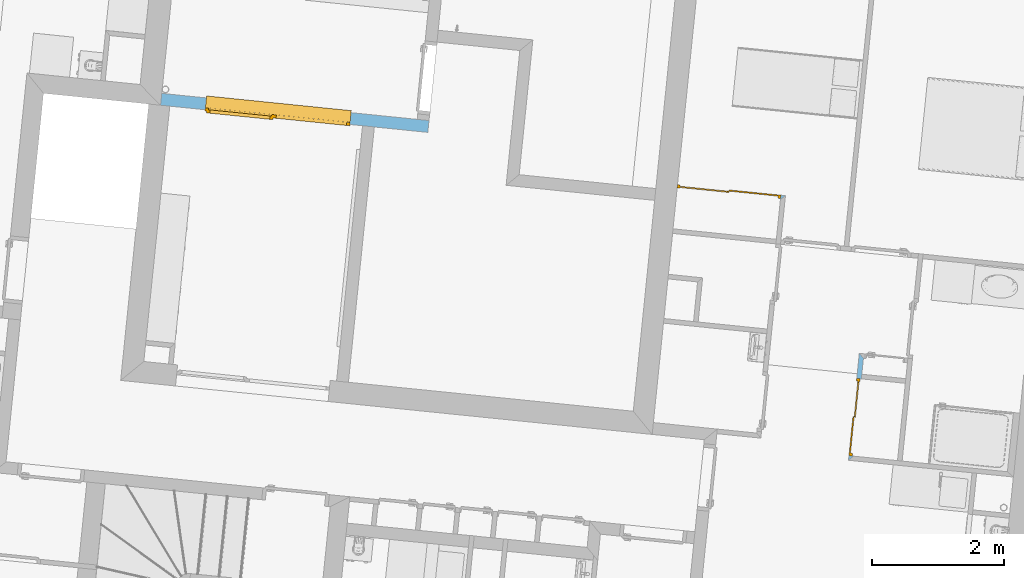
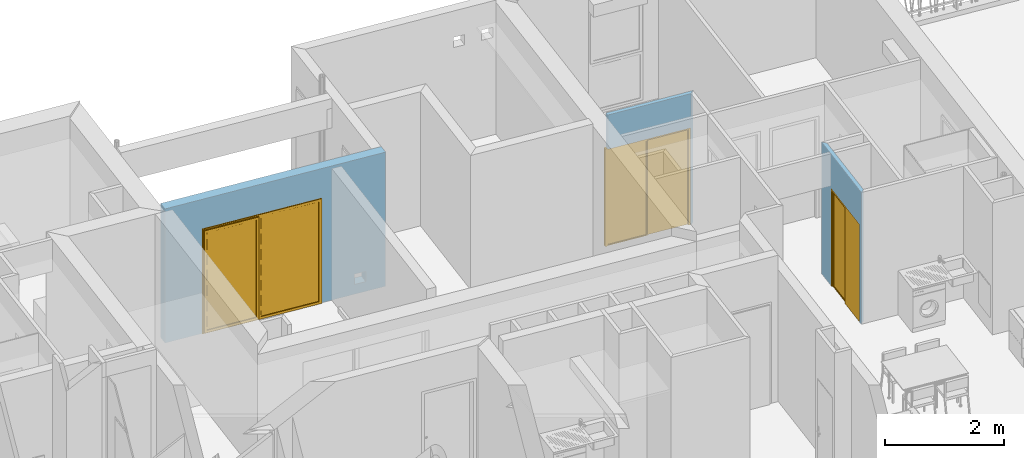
# One storey, part 111 of 171: 2 doors, 1 window, 4 openings, plus 3 elements that do not belong to this part.
"""IFC2X3 building model written with IfcOpenShell, lengths in millimetres."""

from ifc_helpers import new_model, entity, si_unit, converted_unit, derived_unit, money_unit, direction, frame, origin_with_axes, origin_2d_with_axis, place, context, subcontext, project, spatial, polyline, rectangle, outline, extrude, open_shell, faceted_brep, surface_model, material, layer, layer_set, layer_usage, type_object, element, fill, save


model = new_model("IFC2X3")

# Units and contexts
model_context = context("Model", 3, precision=0.01, world=origin_with_axes(), true_north=direction((0.0, 1.0)))
body_context = subcontext(model_context, "Body", "Model", "MODEL_VIEW")
ifc_project = project(units=[si_unit("LENGTHUNIT", "METRE", prefix="MILLI"), si_unit("AREAUNIT", "SQUARE_METRE"), si_unit("VOLUMEUNIT", "CUBIC_METRE"), converted_unit("PLANEANGLEUNIT", "DEGREE", entity("IfcPlaneAngleMeasure", 0.0174532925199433), si_unit("PLANEANGLEUNIT", "RADIAN"), dimensions=[0, 0, 0, 0, 0, 0, 0]), money_unit("USD"), converted_unit("TIMEUNIT", "Year", entity("IfcTimeMeasure", 31557600.0), si_unit("TIMEUNIT", "SECOND"), dimensions=[0, 0, 1, 0, 0, 0, 0]), si_unit("MASSUNIT", "GRAM", prefix="KILO"), si_unit("THERMODYNAMICTEMPERATUREUNIT", "DEGREE_CELSIUS"), si_unit("LUMINOUSINTENSITYUNIT", "LUMEN"), si_unit("ENERGYUNIT", "JOULE", prefix="MEGA"), derived_unit("THERMALCONDUCTANCEUNIT", [(si_unit("POWERUNIT", "WATT"), 1), (si_unit("LENGTHUNIT", "METRE"), -1), (si_unit("THERMODYNAMICTEMPERATUREUNIT", "KELVIN"), -1)]), derived_unit("SPECIFICHEATCAPACITYUNIT", [(si_unit("ENERGYUNIT", "JOULE"), 1), (si_unit("MASSUNIT", "GRAM", prefix="KILO"), -1), (si_unit("THERMODYNAMICTEMPERATUREUNIT", "KELVIN"), -1)]), derived_unit("MASSDENSITYUNIT", [(si_unit("MASSUNIT", "GRAM", prefix="KILO"), 1), (si_unit("VOLUMEUNIT", "CUBIC_METRE"), -1)])], contexts=[model_context])

# Site, building, storey
site_placement = place(None, origin_with_axes())
site = spatial("IfcSite", under=ifc_project, at=site_placement, Name="Site", CompositionType="ELEMENT")
building_placement = place(site_placement, origin_with_axes())
building = spatial("IfcBuilding", under=site, at=building_placement, Name="Bâtiment", CompositionType="ELEMENT")
storey_placement = place(building_placement, frame((0.0, 0.0, 3000.0), z_axis=(0.0, 0.0, 1.0), x_axis=(1.0, 0.0, 0.0)))
storey = spatial("IfcBuildingStorey", under=building, at=storey_placement, Name="rdc", CompositionType="ELEMENT", Elevation=3000.0)

# Wall, opening, door
ifc_material_1 = material(Name="Hachure solide 268963992")
ifc_layer_1 = layer(ifc_material_1, 70.0, ventilated="UNKNOWN")
ifc_layer_set_1 = layer_set([ifc_layer_1], Name="Cloison 70 0826278243")
ifc_layer_usage_1 = layer_usage(ifc_layer_set_1, "AXIS2", "NEGATIVE", 0.0)
wall_type_1 = type_object("IfcWallType", Name="Cloison 70 0826278243 70", PredefinedType="NOTDEFINED")
wall_1_placement = place(storey_placement, frame((2234019.011234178, -609514.5920400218, 0.0), z_axis=(0.0, 0.0, 1.0), x_axis=(0.9948759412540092, -0.1011032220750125, 0.0)))
wall_1 = element("IfcWallStandardCase", 1, at=wall_1_placement, inside=storey, type_object=wall_type_1, material=ifc_layer_usage_1, Name="Mur-153", context=body_context, shape_type="SweptSolid", body=[
    extrude(outline(polyline([(0.0, -69.99999999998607), (1531.417973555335, -69.99999999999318), (1601.417973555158, 0.0), (0.0, 0.0), (0.0, -69.99999999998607)])), origin_with_axes(), (0.0, 0.0, 1.0), 2700.0),
])
opening_1_placement = place(wall_1_placement, frame((745.7089867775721, 0.0, 0.0), z_axis=(0.0, 0.0, 1.0), x_axis=(1.0, 0.0, 0.0)))
opening_1 = element("IfcOpeningElement", 2, at=opening_1_placement, cuts=wall_1, Name="Por-325", context=body_context, shape_type="SweptSolid", body=[
    extrude(rectangle(XDim=1571.417973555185, YDim=2000.0, at=origin_2d_with_axis()), frame((0.0, 0.0, 1000.0), z_axis=(0.0, -1.0, 0.0), x_axis=(1.0, 0.0, 0.0)), (0.0, 0.0, -1.0), 70.0),
    extrude(rectangle(XDim=1571.417973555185, YDim=2000.0, at=origin_2d_with_axis()), frame((0.0, 0.0, 1000.0), z_axis=(0.0, 1.0, 0.0), x_axis=(1.0, 0.0, 0.0)), (0.0, 0.0, -1.0), 70.0),
])
door_style = type_object("IfcDoorStyle", ConstructionType="NOTDEFINED", OperationType="NOTDEFINED", ParameterTakesPrecedence=False, Sizeable=False)
door_1_placement = place(opening_1_placement, frame((-785.7089867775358, 0.0, 0.0), z_axis=(0.0, 0.0, 1.0), x_axis=(1.0, 0.0, 0.0)))
door_1 = element("IfcDoor", 3, at=door_1_placement, inside=storey, type_object=door_style, Name="Por-325", OverallHeight=2000.0, OverallWidth=1571.42, context=body_context, shape_type="SurfaceModel", body=[
    faceted_brep([(1571.417973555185, 0.0, 0.0), (1531.417973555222, 0.0, 0.0), (1531.417973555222, 0.0, 1960.0), (39.99999999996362, 0.0, 1960.0), (39.99999999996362, 0.0, 0.0), (0.0, 0.0, 0.0), (0.0, 0.0, 2000.0), (1571.417973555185, 0.0, 2000.0), (1571.417973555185, -49.99999999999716, 0.0), (1531.417973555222, -49.99999999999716, 0.0), (1531.417973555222, -9.99999999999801, 0.0), (1531.417973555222, -9.99999999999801, 1960.0), (39.99999999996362, -9.99999999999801, 1960.0), (39.99999999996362, -9.99999999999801, 0.0), (39.99999999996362, -49.99999999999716, 0.0), (-1.13686837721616e-10, -49.99999999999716, 0.0), (-1.13686837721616e-10, -49.99999999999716, 2000.0), (1571.417973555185, -49.99999999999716, 2000.0), (39.99999999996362, -49.99999999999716, 1960.0), (1531.417973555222, -49.99999999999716, 1960.0)], [[[0, 1, 2, 3, 4, 5, 6, 7]], [[0, 8, 9, 10, 1]], [[1, 10, 11, 2]], [[2, 11, 12, 3]], [[3, 12, 13, 4]], [[5, 4, 13, 14, 15]], [[16, 6, 5, 15]], [[17, 7, 6, 16]], [[8, 0, 7, 17]], [[9, 8, 17, 16, 15, 14, 18, 19]], [[10, 9, 19, 11]], [[11, 19, 18, 12]], [[12, 18, 14, 13]]]),
    faceted_brep([(39.99999999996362, -19.99999999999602, 0.0), (785.7089867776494, -19.99999999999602, 0.0), (785.7089867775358, -40.00000000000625, 0.0), (39.99999999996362, -39.99999999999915, 0.0), (39.99999999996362, -19.99999999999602, 1960.0), (785.7089867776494, -19.99999999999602, 1960.0), (59.99999999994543, -19.99999999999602, 20.00000000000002), (765.708986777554, -20.00000000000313, 20.00000000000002), (765.708986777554, -20.00000000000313, 1940.0), (59.99999999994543, -19.99999999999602, 1940.0), (785.7089867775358, -40.00000000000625, 1960.0), (39.99999999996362, -39.99999999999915, 1960.0), (60.00000000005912, -39.99999999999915, 20.00000000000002), (60.00000000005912, -39.99999999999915, 1940.0), (765.7089867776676, -39.99999999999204, 1940.0), (765.7089867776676, -39.99999999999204, 20.00000000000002)], [[[0, 1, 2, 3]], [[0, 4, 5, 1], [6, 7, 8, 9]], [[1, 5, 10, 2]], [[3, 2, 10, 11], [12, 13, 14, 15]], [[4, 0, 3, 11]], [[5, 4, 11, 10]], [[7, 6, 12, 15]], [[8, 7, 15, 14]], [[9, 8, 14, 13]], [[6, 9, 13, 12]]]),
    surface_model("IfcShellBasedSurfaceModel", [(60.00000000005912, -30.00000000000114, 20.00000000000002), (765.7089867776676, -29.99999999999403, 20.00000000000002), (765.7089867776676, -29.99999999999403, 1940.0), (60.00000000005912, -30.00000000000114, 1940.0)], [open_shell([[[0, 1, 2, 3]]])]),
    faceted_brep([(780.7089867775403, 0.0, 0.0), (1531.417973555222, 0.0, 0.0), (1531.417973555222, -19.99999999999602, 0.0), (780.708986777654, -19.99999999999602, 0.0), (780.7089867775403, 0.0, 1960.0), (1531.417973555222, 0.0, 1960.0), (1531.417973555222, -19.99999999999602, 1960.0), (780.708986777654, -19.99999999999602, 1960.0)], [[[0, 1, 2, 3]], [[0, 4, 5, 1]], [[1, 5, 6, 2]], [[3, 2, 6, 7]], [[4, 0, 3, 7]], [[5, 4, 7, 6]]]),
])
fill(opening_1, door_1)

ifc_layer_usage_2 = layer_usage(ifc_layer_set_1, "AXIS2", "NEGATIVE", 0.0)
wall_2_placement = place(storey_placement, frame((2236571.940387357, -613609.43394137, 0.0), z_axis=(0.0, 0.0, 1.0), x_axis=(0.1008361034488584, 0.9949030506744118, 0.0)))
wall_2 = element("IfcWallStandardCase", 4, at=wall_2_placement, inside=storey, type_object=wall_type_1, material=ifc_layer_usage_2, Name="Mur-153", context=body_context, shape_type="SweptSolid", body=[
    extrude(outline(polyline([(-0.01877734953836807, -70.00000000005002), (1485.488833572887, -70.00000000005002), (1555.488833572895, 0.0), (-69.99998503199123, 0.0), (-0.01877734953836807, -70.00000000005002)])), origin_with_axes(), (0.0, 0.0, 1.0), 2700.0),
])
opening_2_placement = place(wall_2_placement, frame((587.2524613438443, 1.13686837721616e-10, 0.0), z_axis=(0.0, 0.0, 1.0), x_axis=(1.0, 0.0, 0.0)))
opening_2 = element("IfcOpeningElement", 5, at=opening_2_placement, cuts=wall_2, Name="Por-254", context=body_context, shape_type="SweptSolid", body=[
    extrude(rectangle(XDim=1174.542511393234, YDim=2000.0, at=origin_2d_with_axis()), frame((0.0, -1.13686837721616e-10, 1000.0), z_axis=(0.0, -1.0, 0.0), x_axis=(1.0, 0.0, 0.0)), (0.0, 0.0, -1.0), 70.0),
    extrude(rectangle(XDim=1174.542511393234, YDim=2000.0, at=origin_2d_with_axis()), frame((0.0, 0.0, 1000.0), z_axis=(0.0, 1.0, 0.0), x_axis=(1.0, 0.0, 0.0)), (0.0, 0.0, -1.0), 70.0),
])
door_2_placement = place(opening_2_placement, frame((-587.2712556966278, -2.273736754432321e-10, 0.0), z_axis=(0.0, 0.0, 1.0), x_axis=(1.0, 0.0, 0.0)))
door_2 = element("IfcDoor", 6, at=door_2_placement, inside=storey, type_object=door_style, Name="Por-254", OverallHeight=2000.0, OverallWidth=1174.54, context=body_context, shape_type="SurfaceModel", body=[
    faceted_brep([(0.0, 0.0, 0.0), (0.0, 0.0, 2000.0), (1174.542511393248, -1.13686837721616e-10, 2000.0), (1174.542511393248, -1.13686837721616e-10, 0.0), (1134.542511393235, 0.0, 0.0), (1134.542511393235, 0.0, 1960.0), (40.00000000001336, -1.13686837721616e-10, 1960.0), (40.00000000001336, -1.13686837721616e-10, 0.0), (0.0, -50.00000000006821, 0.0), (0.0, -50.00000000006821, 2000.0), (1174.542511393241, -50.00000000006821, 2000.0), (1174.542511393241, -50.00000000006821, 0.0), (1134.542511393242, -50.00000000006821, 0.0), (1134.542511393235, -9.999999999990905, 0.0), (1134.542511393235, -9.999999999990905, 1960.0), (40.00000000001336, -10.00000000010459, 1960.0), (40.00000000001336, -10.00000000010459, 0.0), (39.99999999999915, -49.99999999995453, 0.0), (39.99999999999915, -49.99999999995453, 1960.0), (1134.542511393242, -50.00000000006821, 1960.0)], [[[0, 1, 2, 3, 4, 5, 6, 7]], [[8, 9, 1, 0]], [[9, 10, 2, 1]], [[10, 11, 3, 2]], [[3, 11, 12, 13, 4]], [[5, 4, 13, 14]], [[6, 5, 14, 15]], [[7, 6, 15, 16]], [[0, 7, 16, 17, 8]], [[17, 18, 19, 12, 11, 10, 9, 8]], [[14, 13, 12, 19]], [[15, 14, 19, 18]], [[16, 15, 18, 17]]]),
    faceted_brep([(1134.542511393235, -19.99999999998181, 0.0), (1134.542511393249, -40.00000000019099, 0.0), (587.2712556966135, -40.00000000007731, 0.0), (587.2712556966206, -20.0000000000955, 0.0), (1134.542511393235, -19.99999999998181, 1960.0), (1134.542511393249, -40.00000000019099, 1960.0), (587.2712556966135, -40.00000000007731, 1960.0), (1114.542511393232, -40.00000000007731, 20.00000000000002), (607.2712556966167, -39.99999999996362, 20.00000000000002), (607.2712556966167, -39.99999999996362, 1940.0), (1114.542511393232, -40.00000000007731, 1940.0), (587.2712556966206, -20.0000000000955, 1960.0), (1114.542511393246, -20.0000000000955, 20.00000000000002), (1114.542511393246, -20.0000000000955, 1940.0), (607.2712556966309, -19.99999999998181, 1940.0), (607.2712556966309, -19.99999999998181, 20.00000000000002)], [[[0, 1, 2, 3]], [[4, 5, 1, 0]], [[1, 5, 6, 2], [7, 8, 9, 10]], [[3, 2, 6, 11]], [[0, 3, 11, 4], [12, 13, 14, 15]], [[11, 6, 5, 4]], [[15, 8, 7, 12]], [[14, 9, 8, 15]], [[13, 10, 9, 14]], [[12, 7, 10, 13]]]),
    surface_model("IfcShellBasedSurfaceModel", [(1114.542511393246, -29.99999999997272, 20.00000000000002), (1114.542511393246, -29.99999999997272, 1940.0), (607.2712556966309, -30.0000000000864, 1940.0), (607.2712556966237, -30.0000000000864, 20.00000000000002)], [open_shell([[[0, 1, 2, 3]]])]),
    faceted_brep([(592.2712556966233, -1.13686837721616e-10, 0.0), (592.2712556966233, -19.99999999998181, 0.0), (39.99999999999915, -20.0000000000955, 0.0), (40.00000000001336, -1.13686837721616e-10, 0.0), (592.2712556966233, -1.13686837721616e-10, 1960.0), (592.2712556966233, -19.99999999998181, 1960.0), (39.99999999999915, -20.0000000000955, 1960.0), (40.00000000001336, -1.13686837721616e-10, 1960.0)], [[[0, 1, 2, 3]], [[4, 5, 1, 0]], [[1, 5, 6, 2]], [[3, 2, 6, 7]], [[0, 3, 7, 4]], [[7, 6, 5, 4]]]),
])
fill(opening_2, door_2)

# Wall, openings, window
ifc_material_2 = material(Name="Parpaing 312445824")
ifc_layer_2 = layer(ifc_material_2, 180.0, ventilated="UNKNOWN")
ifc_layer_set_2 = layer_set([ifc_layer_2], Name="Beton  18 0836643197")
ifc_layer_usage_3 = layer_usage(ifc_layer_set_2, "AXIS2", "NEGATIVE", 0.0)
wall_type_2 = type_object("IfcWallType", Name="Beton  18 0836643197 180", PredefinedType="NOTDEFINED")
wall_3_placement = place(storey_placement, frame((2226179.000289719, -608130.0117790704, 0.0), z_axis=(0.0, 0.0, 1.0), x_axis=(0.9948663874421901, -0.1011971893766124, 0.0)))
wall_3 = element("IfcWallStandardCase", 7, at=wall_3_placement, inside=storey, type_object=wall_type_2, material=ifc_layer_usage_3, Name="Mur-142", context=body_context, shape_type="SweptSolid", body=[
    extrude(outline(polyline([(0.01714317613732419, -180.0000000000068), (4062.804140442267, -180.0000000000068), (4062.804140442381, 0.0), (0.0001597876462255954, 0.0), (0.01714317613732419, -180.0000000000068)])), origin_with_axes(), (0.0, 0.0, 1.0), 2750.0),
])
opening_3_placement = place(wall_3_placement, frame((1778.359146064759, 0.0, 0.0), z_axis=(0.0, 0.0, 1.0), x_axis=(1.0, 0.0, 0.0)))
opening_3 = element("IfcOpeningElement", 8, at=opening_3_placement, cuts=wall_3, Name="Fen-155", context=body_context, shape_type="SweptSolid", body=[
    extrude(rectangle(XDim=2199.989013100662, YDim=2150.0, at=origin_2d_with_axis()), frame((0.0, -150.0000000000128, 1075.0), z_axis=(0.0, 1.0, 0.0), x_axis=(1.0, 0.0, 0.0)), (0.0, 0.0, 1.0), 329.9999999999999),
    extrude(rectangle(XDim=2199.98901310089, YDim=2150.0, at=origin_2d_with_axis()), frame((1.13686837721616e-10, -149.9999999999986, 1075.0), z_axis=(0.0, -1.0, 0.0), x_axis=(1.0, 0.0, 0.0)), (0.0, 0.0, 1.0), 210.0),
])
opening_4_placement = place(wall_3_placement, frame((3592.598133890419, 0.0, 200.0000000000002), z_axis=(0.0, 0.0, 1.0), x_axis=(1.0, 0.0, 0.0)))
element("IfcOpeningElement", 9, at=opening_4_placement, cuts=wall_3, Name="Fen-211", context=body_context, shape_type="SweptSolid", body=[
    extrude(rectangle(XDim=209.9999999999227, YDim=210.0, at=origin_2d_with_axis()), frame((0.0, -289.999999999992, 105.0), z_axis=(0.0, -1.0, 0.0), x_axis=(1.0, 0.0, 0.0)), (0.0, 0.0, -1.0), 470.0),
    extrude(rectangle(XDim=209.9999999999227, YDim=210.0, at=origin_2d_with_axis()), frame((0.0, -289.999999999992, 105.0), z_axis=(0.0, 1.0, 0.0), x_axis=(1.0, 0.0, 0.0)), (0.0, 0.0, -1.0), 470.0),
])
window_style = type_object("IfcWindowStyle", Name="Fenêtre variable 27", ConstructionType="NOTDEFINED", OperationType="DOUBLE_PANEL_VERTICAL", ParameterTakesPrecedence=False, Sizeable=False)
window_placement = place(opening_3_placement, frame((1099.994506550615, 0.0, 0.0), z_axis=(0.0, 0.0, 1.0), x_axis=(-1.0, 0.0, 0.0)))
window = element("IfcWindow", 10, at=window_placement, inside=storey, type_object=window_style, Name="Fen-155", OverallHeight=2150.0, OverallWidth=2199.99, context=body_context, shape_type="SurfaceModel", body=[
    surface_model("IfcShellBasedSurfaceModel", [(2199.98901310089, 149.0000000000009, 49.99999999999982), (1.13686837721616e-10, 148.9999999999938, 50.00000000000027), (1.13686837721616e-10, 148.9999999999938, 40.00000000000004), (2199.98901310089, 149.0000000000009, 40.00000000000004), (0.0, -30.00000000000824, 28.00000000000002), (2199.98901310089, -30.00000000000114, 28.00000000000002), (0.0, -30.00000000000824, 8.000000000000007), (2199.98901310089, -30.00000000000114, 8.000000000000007), (0.0, -20.00000000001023, 18.00000000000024), (2199.989013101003, -19.99999999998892, 17.99999999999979)], [open_shell([[[0, 1, 2, 3]], [[3, 2, 4, 5]], [[5, 4, 6, 7]], [[7, 6, 8, 9]]])]),
    faceted_brep([(2174.989013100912, 199.9999999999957, 2100.0), (2174.989013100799, 174.9999999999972, 2100.0), (2149.989013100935, 174.9999999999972, 2100.0), (2149.989013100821, 149.9999999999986, 2100.0), (2199.989013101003, 149.9999999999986, 2100.0), (2199.98901310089, 200.0000000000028, 2100.0), (2174.989013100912, 199.9999999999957, 50.00000000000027), (2174.989013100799, 175.0000000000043, 50.00000000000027), (2149.989013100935, 174.9999999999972, 49.99999999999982), (2149.989013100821, 149.9999999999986, 49.99999999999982), (2199.989013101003, 149.9999999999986, 49.99999999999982), (2199.98901310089, 200.0000000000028, 50.00000000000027)], [[[0, 1, 2, 3, 4, 5]], [[1, 0, 6, 7]], [[8, 2, 1, 7]], [[2, 8, 9, 3]], [[4, 3, 9, 10]], [[5, 4, 10, 11]], [[6, 0, 5, 11]], [[7, 6, 11, 10, 9, 8]]]),
    faceted_brep([(1190.451404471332, 174.9999999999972, 2100.0), (1165.451404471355, 175.0000000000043, 2100.0), (1165.451404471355, 199.9999999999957, 2100.0), (1120.451404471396, 199.9999999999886, 2100.0), (1120.451404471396, 149.9999999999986, 2100.0), (1190.451404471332, 149.9999999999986, 2100.0), (1190.451404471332, 174.9999999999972, 49.99999999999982), (1165.451404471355, 175.0000000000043, 49.99999999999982), (1165.451404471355, 200.0000000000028, 50.00000000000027), (1120.451404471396, 199.9999999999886, 50.00000000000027), (1120.451404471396, 149.9999999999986, 49.99999999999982), (1190.451404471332, 149.9999999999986, 49.99999999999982)], [[[0, 1, 2, 3, 4, 5]], [[1, 0, 6, 7]], [[8, 2, 1, 7]], [[2, 8, 9, 3]], [[9, 10, 4, 3]], [[10, 11, 5, 4]], [[6, 0, 5, 11]], [[7, 6, 11, 10, 9, 8]]]),
    faceted_brep([(1190.451404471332, 174.9999999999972, 49.99999999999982), (1165.451404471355, 175.0000000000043, 49.99999999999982), (1165.451404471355, 200.0000000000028, 50.00000000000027), (1120.451404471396, 199.9999999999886, 50.00000000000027), (1120.451404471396, 149.9999999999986, 49.99999999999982), (1190.451404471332, 149.9999999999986, 49.99999999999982), (2149.989013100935, 174.9999999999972, 49.99999999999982), (2174.989013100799, 175.0000000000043, 50.00000000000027), (2174.989013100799, 175.0000000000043, 24.99999999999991), (1165.451404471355, 175.0000000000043, 24.99999999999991), (1165.451404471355, 200.0000000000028, 24.99999999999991), (2174.989013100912, 199.9999999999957, 24.99999999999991), (2174.989013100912, 199.9999999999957, 50.00000000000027), (2199.98901310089, 200.0000000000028, 50.00000000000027), (2199.98901310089, 200.0000000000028, 0.0), (0.0, 199.9999999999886, 0.0), (0.0, 199.9999999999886, 50.00000000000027), (50.00000000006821, 200.0000000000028, 50.00000000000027), (49.99999999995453, 149.9999999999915, 49.99999999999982), (2199.989013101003, 149.9999999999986, 49.99999999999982), (2149.989013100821, 149.9999999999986, 49.99999999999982), (0.0, 149.9999999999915, 49.99999999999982), (0.0, 149.9999999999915, 0.0), (2199.989013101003, 149.9999999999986, 0.0)], [[[0, 1, 2, 3, 4, 5]], [[1, 0, 6, 7, 8, 9]], [[10, 2, 1, 9]], [[11, 12, 13, 14, 15, 16, 17, 3, 2, 10]], [[17, 18, 4, 3]], [[19, 20, 5, 4, 18, 21, 22, 23]], [[6, 0, 5, 20]], [[7, 6, 20, 19, 13, 12]], [[7, 12, 11, 8]], [[11, 10, 9, 8]], [[13, 19, 23, 14]], [[14, 23, 22, 15]], [[15, 22, 21, 16]], [[16, 21, 18, 17]]]),
    faceted_brep([(2174.989013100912, 199.9999999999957, 2100.0), (2174.989013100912, 199.9999999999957, 2125.0), (1165.451404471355, 199.9999999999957, 2125.0), (1165.451404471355, 199.9999999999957, 2100.0), (1120.451404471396, 199.9999999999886, 2100.0), (50.00000000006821, 200.0000000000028, 2100.0), (0.0, 199.9999999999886, 2100.0), (0.0, 199.9999999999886, 2150.0), (2199.98901310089, 200.0000000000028, 2150.0), (2199.98901310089, 200.0000000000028, 2100.0), (2174.989013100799, 174.9999999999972, 2100.0), (2174.989013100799, 174.9999999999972, 2125.0), (1165.451404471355, 175.0000000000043, 2125.0), (1165.451404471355, 175.0000000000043, 2100.0), (1190.451404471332, 174.9999999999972, 2100.0), (1190.451404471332, 149.9999999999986, 2100.0), (1120.451404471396, 149.9999999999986, 2100.0), (49.99999999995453, 149.9999999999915, 2100.0), (0.0, 149.9999999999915, 2100.0), (0.0, 149.9999999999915, 2150.0), (2199.989013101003, 149.9999999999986, 2150.0), (2199.989013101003, 149.9999999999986, 2100.0), (2149.989013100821, 149.9999999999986, 2100.0), (2149.989013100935, 174.9999999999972, 2100.0)], [[[0, 1, 2, 3, 4, 5, 6, 7, 8, 9]], [[1, 0, 10, 11]], [[2, 1, 11, 12]], [[3, 2, 12, 13]], [[13, 14, 15, 16, 4, 3]], [[4, 16, 17, 5]], [[5, 17, 18, 6]], [[6, 18, 19, 7]], [[7, 19, 20, 8]], [[8, 20, 21, 9]], [[10, 0, 9, 21, 22, 23]], [[14, 13, 12, 11, 10, 23]], [[14, 23, 22, 15]], [[16, 15, 22, 21, 20, 19, 18, 17]]]),
    faceted_brep([(49.99999999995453, 149.9999999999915, 49.99999999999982), (0.0, 149.9999999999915, 49.99999999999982), (0.0, 199.9999999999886, 49.99999999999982), (50.00000000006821, 200.0000000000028, 49.99999999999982), (49.99999999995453, 149.9999999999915, 2100.0), (0.0, 149.9999999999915, 2100.0), (0.0, 199.9999999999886, 2100.0), (50.00000000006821, 200.0000000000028, 2100.0)], [[[0, 1, 2, 3]], [[0, 4, 5, 1]], [[1, 5, 6, 2]], [[3, 2, 6, 7]], [[4, 0, 3, 7]], [[5, 4, 7, 6]]]),
    faceted_brep([(2124.989013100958, 175.0000000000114, 2075.0), (2174.989013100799, 174.9999999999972, 2075.0), (2174.989013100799, 224.9999999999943, 2075.0), (2124.989013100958, 225.0000000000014, 2075.0), (2124.989013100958, 175.0000000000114, 75.00000000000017), (2174.989013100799, 175.0000000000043, 75.00000000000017), (2174.989013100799, 224.9999999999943, 75.00000000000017), (2124.989013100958, 225.0000000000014, 75.00000000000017)], [[[0, 1, 2, 3]], [[0, 4, 5, 1]], [[1, 5, 6, 2]], [[3, 2, 6, 7]], [[4, 0, 3, 7]], [[5, 4, 7, 6]]]),
    faceted_brep([(1215.45140447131, 174.9999999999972, 75.00000000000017), (1165.451404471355, 175.0000000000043, 75.00000000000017), (1165.451404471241, 224.9999999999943, 75.00000000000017), (1215.45140447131, 224.9999999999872, 75.00000000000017), (1215.45140447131, 174.9999999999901, 2075.0), (1165.451404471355, 175.0000000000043, 2075.0), (1165.451404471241, 224.9999999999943, 2075.0), (1215.45140447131, 224.9999999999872, 2075.0)], [[[0, 1, 2, 3]], [[0, 4, 5, 1]], [[1, 5, 6, 2]], [[3, 2, 6, 7]], [[4, 0, 3, 7]], [[5, 4, 7, 6]]]),
    faceted_brep([(1165.451404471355, 175.0000000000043, 24.99999999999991), (1165.451404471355, 175.0000000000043, 75.00000000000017), (1165.451404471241, 224.9999999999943, 75.00000000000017), (1165.451404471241, 224.9999999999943, 24.99999999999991), (2174.989013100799, 175.0000000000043, 24.99999999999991), (2174.989013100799, 175.0000000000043, 75.00000000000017), (2124.989013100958, 175.0000000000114, 75.00000000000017), (1215.45140447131, 174.9999999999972, 75.00000000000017), (1215.45140447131, 224.9999999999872, 75.00000000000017), (2124.989013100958, 225.0000000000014, 75.00000000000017), (2174.989013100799, 224.9999999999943, 75.00000000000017), (2174.989013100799, 224.9999999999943, 24.99999999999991)], [[[0, 1, 2, 3]], [[0, 4, 5, 6, 7, 1]], [[1, 7, 8, 2]], [[3, 2, 8, 9, 10, 11]], [[4, 0, 3, 11]], [[5, 4, 11, 10]], [[6, 5, 10, 9]], [[7, 6, 9, 8]]]),
    faceted_brep([(2174.989013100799, 174.9999999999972, 2125.0), (2174.989013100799, 174.9999999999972, 2075.0), (2174.989013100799, 224.9999999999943, 2075.0), (2174.989013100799, 224.9999999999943, 2125.0), (1165.451404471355, 175.0000000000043, 2125.0), (1165.451404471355, 175.0000000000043, 2075.0), (1215.45140447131, 174.9999999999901, 2075.0), (2124.989013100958, 175.0000000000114, 2075.0), (2124.989013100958, 225.0000000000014, 2075.0), (1215.45140447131, 224.9999999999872, 2075.0), (1165.451404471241, 224.9999999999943, 2075.0), (1165.451404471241, 224.9999999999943, 2125.0)], [[[0, 1, 2, 3]], [[0, 4, 5, 6, 7, 1]], [[1, 7, 8, 2]], [[3, 2, 8, 9, 10, 11]], [[4, 0, 3, 11]], [[5, 4, 11, 10]], [[6, 5, 10, 9]], [[7, 6, 9, 8]]]),
    surface_model("IfcShellBasedSurfaceModel", [(2124.989013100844, 189.9999999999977, 75.00000000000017), (2124.989013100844, 189.9999999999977, 2075.0), (1215.45140447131, 189.9999999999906, 2075.0), (1215.45140447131, 189.9999999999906, 75.00000000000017)], [open_shell([[[0, 1, 2, 3]]])]),
    surface_model("IfcShellBasedSurfaceModel", [(2124.989013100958, 209.9999999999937, 75.00000000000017), (1215.451404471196, 209.9999999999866, 75.00000000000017), (1215.451404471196, 209.9999999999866, 2075.0), (2124.989013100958, 209.9999999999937, 2075.0)], [open_shell([[[0, 1, 2, 3]]])]),
    surface_model("IfcShellBasedSurfaceModel", [(1120.451404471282, 165.0000000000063, 49.99999999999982), (1120.451404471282, 165.0000000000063, 2100.0), (50.00000000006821, 165.0000000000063, 2100.0), (50.00000000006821, 165.0000000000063, 49.99999999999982)], [open_shell([[[0, 1, 2, 3]]])]),
    surface_model("IfcShellBasedSurfaceModel", [(1120.451404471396, 185.0000000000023, 49.99999999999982), (49.99999999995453, 184.9999999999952, 49.99999999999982), (49.99999999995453, 184.9999999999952, 2100.0), (1120.451404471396, 185.0000000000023, 2100.0)], [open_shell([[[0, 1, 2, 3]]])]),
])
fill(opening_3, window)

save(model, "model.ifc")
